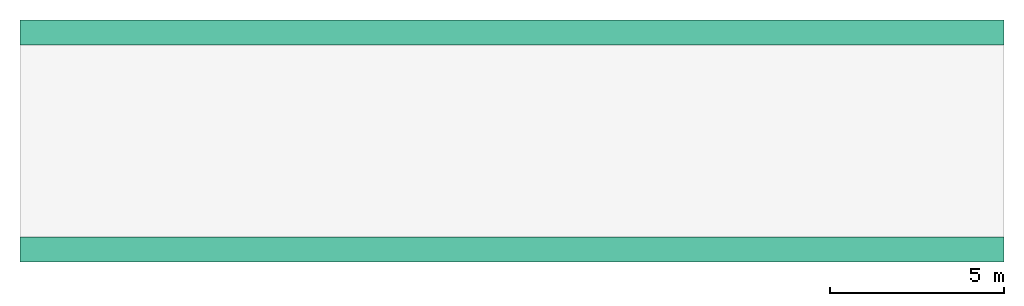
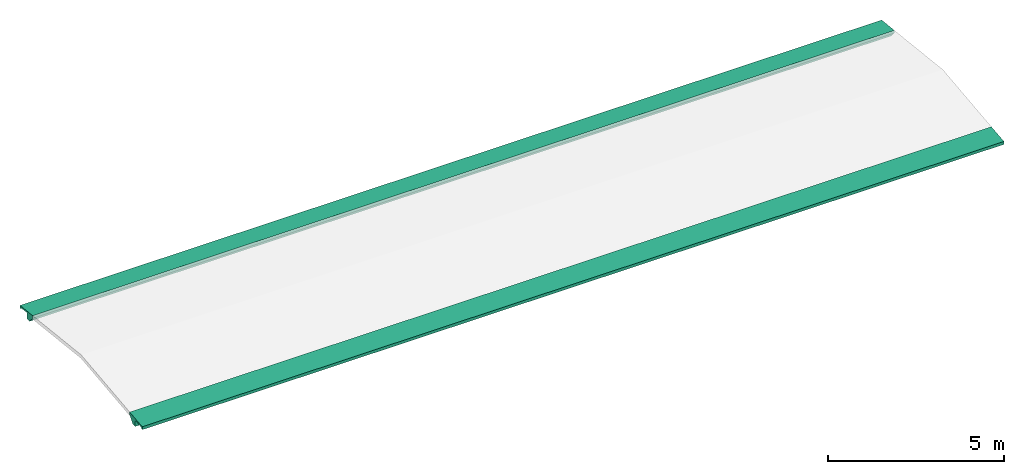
# One storey, part 2 of 2: 2 flow segments.
"""IFC2X3 building model written with IfcOpenShell, lengths in millimetres."""

from ifc_helpers import new_model, entity, si_unit, converted_unit, derived_unit, direction, frame, frame_2d, origin, place, context, subcontext, project, spatial, polyline, circle_curve, parameter, trimmed, segment, composite_curve, outline, extrude, source, transform, mapped, type_object, type_shapes, element, save


model = new_model("IFC2X3")

# Units and contexts
model_context = context("Model", 3, precision=0.01, world=origin(), true_north=direction((6.12303176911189e-17, 1.0)))
body_context = subcontext(model_context, "Body", "Model", "MODEL_VIEW")
ifc_project = project(units=[si_unit("LENGTHUNIT", "METRE", prefix="MILLI"), si_unit("AREAUNIT", "SQUARE_METRE"), si_unit("VOLUMEUNIT", "CUBIC_METRE"), converted_unit("PLANEANGLEUNIT", "DEGREE", entity("IfcRatioMeasure", 0.0174532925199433), si_unit("PLANEANGLEUNIT", "RADIAN"), dimensions=[0, 0, 0, 0, 0, 0, 0]), si_unit("MASSUNIT", "GRAM", prefix="KILO"), derived_unit("MASSDENSITYUNIT", [(si_unit("MASSUNIT", "GRAM", prefix="KILO"), 1), (si_unit("LENGTHUNIT", "METRE"), -3)]), si_unit("TIMEUNIT", "SECOND"), si_unit("FREQUENCYUNIT", "HERTZ"), si_unit("THERMODYNAMICTEMPERATUREUNIT", "DEGREE_CELSIUS"), derived_unit("THERMALTRANSMITTANCEUNIT", [(si_unit("MASSUNIT", "GRAM", prefix="KILO"), 1), (si_unit("THERMODYNAMICTEMPERATUREUNIT", "KELVIN"), -1), (si_unit("TIMEUNIT", "SECOND"), -3)]), derived_unit("VOLUMETRICFLOWRATEUNIT", [(si_unit("LENGTHUNIT", "METRE"), 3), (si_unit("TIMEUNIT", "SECOND"), -1)]), si_unit("ELECTRICCURRENTUNIT", "AMPERE"), si_unit("ELECTRICVOLTAGEUNIT", "VOLT"), si_unit("POWERUNIT", "WATT"), si_unit("FORCEUNIT", "NEWTON", prefix="KILO"), si_unit("ILLUMINANCEUNIT", "LUX"), si_unit("LUMINOUSFLUXUNIT", "LUMEN"), si_unit("LUMINOUSINTENSITYUNIT", "CANDELA"), derived_unit("USERDEFINED", [(si_unit("MASSUNIT", "GRAM", prefix="KILO"), -1), (si_unit("LENGTHUNIT", "METRE"), -2), (si_unit("TIMEUNIT", "SECOND"), 3), (si_unit("LUMINOUSFLUXUNIT", "LUMEN"), 1)]), derived_unit("LINEARVELOCITYUNIT", [(si_unit("LENGTHUNIT", "METRE"), 1), (si_unit("TIMEUNIT", "SECOND"), -1)]), si_unit("PRESSUREUNIT", "PASCAL"), derived_unit("USERDEFINED", [(si_unit("LENGTHUNIT", "METRE"), -2), (si_unit("MASSUNIT", "GRAM", prefix="KILO"), 1), (si_unit("TIMEUNIT", "SECOND"), -2)])], contexts=[model_context])

# Site, building, storey
site_placement = place(None, origin())
site = spatial("IfcSite", under=ifc_project, at=site_placement, Name="表面", CompositionType="ELEMENT")
building_placement = place(site_placement, origin())
building = spatial("IfcBuilding", under=site, at=building_placement, CompositionType="ELEMENT")
storey_placement = place(building_placement, frame((0.0, 0.0, 13170.0)))
storey = spatial("IfcBuildingStorey", under=building, at=storey_placement, Name="13.170", CompositionType="ELEMENT", Elevation=13170.0)

# Flow segments
pipe_segment_type_1 = type_object("IfcPipeSegmentType", Name="檐沟:通风楼", PredefinedType="GUTTER")
shared_shape_1 = source(origin(), body_context, "Body", "SweptSolid", [
    extrude(outline(composite_curve([segment(polyline([(-153.055896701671, -171.413602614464), (-16.9183577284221, -171.413602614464)]), True, "CONTINUOUS"), segment(polyline([(-16.9183577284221, -171.413602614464), (-16.9183577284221, 2.57022451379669)]), True, "CONTINUOUS"), segment(trimmed(circle_curve(frame_2d((21.1783125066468, 2.67907780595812), x_axis=(-0.9999959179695, -0.00285727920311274)), 38.0968257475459), [parameter(261.899180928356)], [parameter(3.64683417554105e-08)], True, "PARAMETER"), False, "CONTINUOUS"), segment(polyline([(26.4389523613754, 40.4109449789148), (317.503281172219, 5.44620890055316)]), True, "CONTINUOUS"), segment(polyline([(317.503281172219, 5.44620890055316), (345.513453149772, -35.7468179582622)]), True, "CONTINUOUS"), segment(polyline([(345.513453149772, -35.7468179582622), (383.081642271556, -41.7383295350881)]), True, "CONTINUOUS"), segment(polyline([(383.081642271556, -41.7383295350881), (383.081642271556, 57.9998310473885)]), True, "CONTINUOUS"), segment(polyline([(383.081642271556, 57.9998310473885), (-287.755601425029, 129.236949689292)]), True, "CONTINUOUS"), segment(polyline([(-287.755601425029, 129.236949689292), (-337.755601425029, 134.546517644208)]), True, "CONTINUOUS"), segment(polyline([(-337.755601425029, 134.546517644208), (-337.755601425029, 43.873031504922)]), True, "CONTINUOUS"), segment(polyline([(-337.755601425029, 43.873031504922), (-305.459554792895, 6.22864444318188)]), True, "CONTINUOUS"), segment(polyline([(-305.459554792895, 6.22864444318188), (-153.055896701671, -171.413602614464)]), True, "CONTINUOUS")], self_intersect=False)), frame((-25148.798781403, 11197.4530088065, 175.76305031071), z_axis=(1.0, 0.0, 0.0), x_axis=(0.0, 1.0, 0.0)), (0.0, 0.0, 1.0), 28240.0),
])
type_shapes(pipe_segment_type_1, [shared_shape_1])
flow_segment_1_placement = place(storey_placement, origin())
element("IfcFlowSegment", 1, at=flow_segment_1_placement, inside=storey, type_object=pipe_segment_type_1, Name="檐沟:通风楼", ObjectType="檐沟:通风楼", context=body_context, shape_type="MappedRepresentation", body=[
    mapped(shared_shape_1, transform((0.0, 0.0, 0.0), scale=1.0)),
])
pipe_segment_type_2 = type_object("IfcPipeSegmentType", Name="檐沟:通风楼", PredefinedType="GUTTER")
shared_shape_2 = source(origin(), body_context, "Body", "SweptSolid", [
    extrude(outline(composite_curve([segment(polyline([(-30.4368437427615, -227.77692863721), (203.622214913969, -227.77692863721)]), True, "CONTINUOUS"), segment(polyline([(203.622214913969, -227.77692863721), (253.221957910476, -227.77692863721)]), True, "CONTINUOUS"), segment(polyline([(253.221957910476, -227.77692863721), (322.0398106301, -168.736398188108)]), True, "CONTINUOUS"), segment(polyline([(322.0398106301, -168.736398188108), (285.453375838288, -134.245467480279)]), True, "CONTINUOUS"), segment(polyline([(285.453375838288, -134.245467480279), (-205.4174856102, 328.51055029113)]), True, "CONTINUOUS"), segment(polyline([(-205.4174856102, 328.51055029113), (-281.115094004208, 263.567708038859)]), True, "CONTINUOUS"), segment(polyline([(-281.115094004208, 263.567708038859), (-252.105855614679, 238.956102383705)]), True, "CONTINUOUS"), segment(polyline([(-252.105855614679, 238.956102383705), (-202.603500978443, 244.519561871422)]), True, "CONTINUOUS"), segment(polyline([(-202.603500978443, 244.519561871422), (13.4551426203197, 46.3791096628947)]), True, "CONTINUOUS"), segment(trimmed(circle_curve(frame_2d((-11.7565836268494, 17.8179998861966), x_axis=(0.648962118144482, -0.760820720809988)), 38.0968257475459), [parameter(359.999999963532)], [parameter(98.1008190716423)], True, "PARAMETER"), False, "CONTINUOUS"), segment(polyline([(12.9668130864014, -11.1668545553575), (-119.08053504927, -124.453526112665)]), True, "CONTINUOUS"), segment(polyline([(-119.08053504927, -124.453526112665), (-30.4368437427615, -227.77692863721)]), True, "CONTINUOUS")], self_intersect=False)), frame((-25148.798781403, 5021.94180595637, 175.76305031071), z_axis=(1.0, 0.0, 0.0), x_axis=(0.0, 0.65113334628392, 0.758963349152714)), (0.0, 0.0, 1.0), 28240.0),
])
type_shapes(pipe_segment_type_2, [shared_shape_2])
flow_segment_2_placement = place(storey_placement, origin())
element("IfcFlowSegment", 2, at=flow_segment_2_placement, inside=storey, type_object=pipe_segment_type_2, Name="檐沟:通风楼", ObjectType="檐沟:通风楼", context=body_context, shape_type="MappedRepresentation", body=[
    mapped(shared_shape_2, transform((0.0, 0.0, 0.0), scale=1.0)),
])

save(model, "model.ifc")
